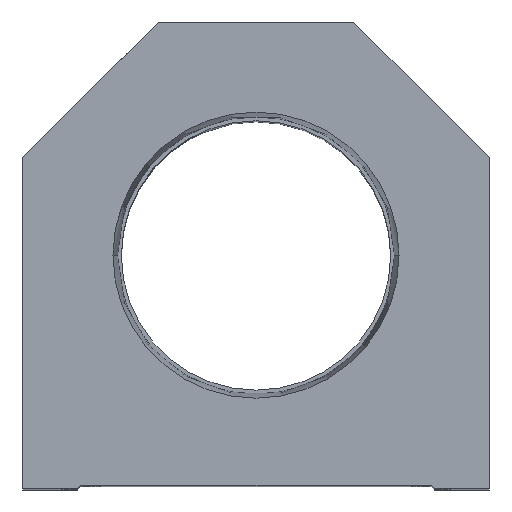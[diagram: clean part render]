
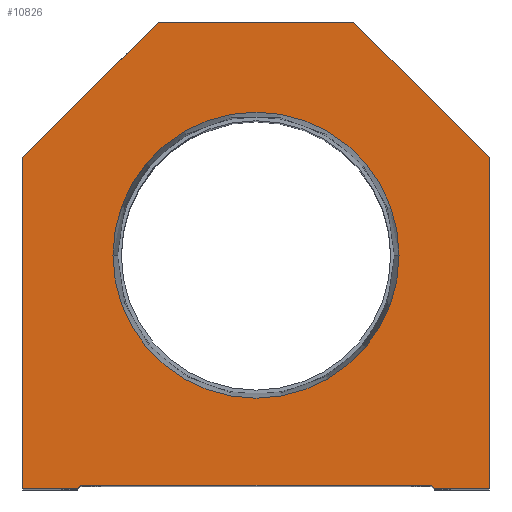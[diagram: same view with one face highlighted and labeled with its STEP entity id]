
A CAD part, top view. The second image highlights one B-rep face of the part: STEP entity #10826.
In plain terms, the highlighted planar face has unit normal (0, 0, 1).
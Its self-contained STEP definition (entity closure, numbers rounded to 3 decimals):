
#342 = VERTEX_POINT ( 'NONE', #2087 ) ;
#475 = AXIS2_PLACEMENT_3D ( 'NONE', #8013, #13179, #9384 ) ;
#737 = VERTEX_POINT ( 'NONE', #1593 ) ;
#806 = VERTEX_POINT ( 'NONE', #9627 ) ;
#1273 = LINE ( 'NONE', #6488, #8922 ) ;
#1296 = VERTEX_POINT ( 'NONE', #10046 ) ;
#1426 = VERTEX_POINT ( 'NONE', #9081 ) ;
#1593 = CARTESIAN_POINT ( 'NONE',  ( 23.374, 38.1, 0. ) ) ;
#1628 = ORIENTED_EDGE ( 'NONE', *, *, #2032, .T. ) ;
#1663 = VERTEX_POINT ( 'NONE', #8011 ) ;
#1791 = ORIENTED_EDGE ( 'NONE', *, *, #12466, .T. ) ;
#1812 = LINE ( 'NONE', #11260, #5793 ) ;
#2032 = EDGE_CURVE ( 'NONE', #10459, #6683, #10661, .T. ) ;
#2086 = CIRCLE ( 'NONE', #7817, 23.374 ) ;
#2087 = CARTESIAN_POINT ( 'NONE',  ( -29.1, 0., 0. ) ) ;
#2286 = FACE_OUTER_BOUND ( 'NONE', #15333, .T. ) ;
#2478 = ORIENTED_EDGE ( 'NONE', *, *, #7042, .T. ) ;
#2767 = EDGE_CURVE ( 'NONE', #15185, #342, #5731, .T. ) ;
#2788 = ORIENTED_EDGE ( 'NONE', *, *, #5217, .T. ) ;
#2837 = EDGE_CURVE ( 'NONE', #10149, #1663, #1812, .T. ) ;
#3220 = CARTESIAN_POINT ( 'NONE',  ( -38.1, 0., 0. ) ) ;
#3261 = DIRECTION ( 'NONE',  ( 1., 0., 0. ) ) ;
#3370 = EDGE_CURVE ( 'NONE', #1663, #10459, #9089, .T. ) ;
#3624 = VERTEX_POINT ( 'NONE', #3685 ) ;
#3685 = CARTESIAN_POINT ( 'NONE',  ( 38.1, 0., 0. ) ) ;
#3791 = CARTESIAN_POINT ( 'NONE',  ( 38.1, 54.1, 0. ) ) ;
#4081 = CARTESIAN_POINT ( 'NONE',  ( 28.6, 0., 0. ) ) ;
#4239 = EDGE_CURVE ( 'NONE', #1296, #737, #2086, .T. ) ;
#4508 = VECTOR ( 'NONE', #10135, 1000. ) ;
#4677 = VECTOR ( 'NONE', #14332, 1000. ) ;
#4866 = CARTESIAN_POINT ( 'NONE',  ( -14.55, 14.55, 0. ) ) ;
#5059 = EDGE_LOOP ( 'NONE', ( #15101, #6911 ) ) ;
#5217 = EDGE_CURVE ( 'NONE', #806, #1426, #1273, .T. ) ;
#5222 = VECTOR ( 'NONE', #9392, 1000. ) ;
#5355 = VECTOR ( 'NONE', #7274, 1000. ) ;
#5435 = LINE ( 'NONE', #6900, #5222 ) ;
#5665 = LINE ( 'NONE', #6158, #5355 ) ;
#5731 = LINE ( 'NONE', #9597, #12670 ) ;
#5793 = VECTOR ( 'NONE', #12366, 1000. ) ;
#6158 = CARTESIAN_POINT ( 'NONE',  ( 38.1, 0., 0. ) ) ;
#6197 = DIRECTION ( 'NONE',  ( 1., 0., 0. ) ) ;
#6488 = CARTESIAN_POINT ( 'NONE',  ( 14.55, 14.55, 0. ) ) ;
#6515 = LINE ( 'NONE', #4866, #4508 ) ;
#6575 = LINE ( 'NONE', #4081, #11543 ) ;
#6683 = VERTEX_POINT ( 'NONE', #9687 ) ;
#6852 = DIRECTION ( 'NONE',  ( -0.707, -0.707, 0. ) ) ;
#6900 = CARTESIAN_POINT ( 'NONE',  ( -28.6, 0.5, 0. ) ) ;
#6911 = ORIENTED_EDGE ( 'NONE', *, *, #4239, .F. ) ;
#6972 = DIRECTION ( 'NONE',  ( 0., -1., 0. ) ) ;
#7042 = EDGE_CURVE ( 'NONE', #7132, #806, #5435, .T. ) ;
#7132 = VERTEX_POINT ( 'NONE', #16329 ) ;
#7274 = DIRECTION ( 'NONE',  ( 0., 1., 0. ) ) ;
#7817 = AXIS2_PLACEMENT_3D ( 'NONE', #15718, #9032, #16908 ) ;
#8011 = CARTESIAN_POINT ( 'NONE',  ( 16., 76.2, 0. ) ) ;
#8013 = CARTESIAN_POINT ( 'NONE',  ( 0., 38.1, 0. ) ) ;
#8124 = AXIS2_PLACEMENT_3D ( 'NONE', #8851, #12742, #6197 ) ;
#8504 = EDGE_CURVE ( 'NONE', #342, #7132, #6515, .T. ) ;
#8851 = CARTESIAN_POINT ( 'NONE',  ( 0., 0., 0. ) ) ;
#8922 = VECTOR ( 'NONE', #16927, 1000. ) ;
#9032 = DIRECTION ( 'NONE',  ( 0., 0., 1. ) ) ;
#9081 = CARTESIAN_POINT ( 'NONE',  ( 29.1, 0., 0. ) ) ;
#9089 = LINE ( 'NONE', #9902, #4677 ) ;
#9275 = ORIENTED_EDGE ( 'NONE', *, *, #14950, .T. ) ;
#9384 = DIRECTION ( 'NONE',  ( 1., 0., 0. ) ) ;
#9392 = DIRECTION ( 'NONE',  ( 1., 0., 0. ) ) ;
#9399 = ORIENTED_EDGE ( 'NONE', *, *, #8504, .T. ) ;
#9597 = CARTESIAN_POINT ( 'NONE',  ( -28.6, 0., 0. ) ) ;
#9627 = CARTESIAN_POINT ( 'NONE',  ( 28.6, 0.5, 0. ) ) ;
#9687 = CARTESIAN_POINT ( 'NONE',  ( -38.1, 54.1, 0. ) ) ;
#9902 = CARTESIAN_POINT ( 'NONE',  ( 16., 76.2, 0. ) ) ;
#10046 = CARTESIAN_POINT ( 'NONE',  ( -23.374, 38.1, 0. ) ) ;
#10135 = DIRECTION ( 'NONE',  ( 0.707, 0.707, 0. ) ) ;
#10149 = VERTEX_POINT ( 'NONE', #3791 ) ;
#10343 = CARTESIAN_POINT ( 'NONE',  ( -38.1, 0., 0. ) ) ;
#10366 = ORIENTED_EDGE ( 'NONE', *, *, #2837, .T. ) ;
#10459 = VERTEX_POINT ( 'NONE', #15844 ) ;
#10661 = LINE ( 'NONE', #14585, #11911 ) ;
#10826 = ADVANCED_FACE ( 'NONE', ( #12914, #2286 ), #12654, .T. ) ;
#11260 = CARTESIAN_POINT ( 'NONE',  ( 38.1, 54.1, 0. ) ) ;
#11543 = VECTOR ( 'NONE', #14632, 1000. ) ;
#11883 = ORIENTED_EDGE ( 'NONE', *, *, #2767, .T. ) ;
#11911 = VECTOR ( 'NONE', #6852, 1000. ) ;
#12324 = ORIENTED_EDGE ( 'NONE', *, *, #3370, .T. ) ;
#12366 = DIRECTION ( 'NONE',  ( -0.707, 0.707, 0. ) ) ;
#12466 = EDGE_CURVE ( 'NONE', #3624, #10149, #5665, .T. ) ;
#12654 = PLANE ( 'NONE',  #8124 ) ;
#12670 = VECTOR ( 'NONE', #3261, 1000. ) ;
#12742 = DIRECTION ( 'NONE',  ( 0., 0., 1. ) ) ;
#12914 = FACE_BOUND ( 'NONE', #5059, .T. ) ;
#13123 = EDGE_CURVE ( 'NONE', #737, #1296, #16604, .T. ) ;
#13179 = DIRECTION ( 'NONE',  ( 0., 0., 1. ) ) ;
#13228 = VECTOR ( 'NONE', #6972, 1000. ) ;
#14332 = DIRECTION ( 'NONE',  ( -1., 0., 0. ) ) ;
#14585 = CARTESIAN_POINT ( 'NONE',  ( -38.1, 54.1, 0. ) ) ;
#14632 = DIRECTION ( 'NONE',  ( 1., 0., 0. ) ) ;
#14950 = EDGE_CURVE ( 'NONE', #6683, #15185, #16148, .T. ) ;
#15101 = ORIENTED_EDGE ( 'NONE', *, *, #13123, .F. ) ;
#15185 = VERTEX_POINT ( 'NONE', #10343 ) ;
#15333 = EDGE_LOOP ( 'NONE', ( #11883, #9399, #2478, #2788, #15480, #1791, #10366, #12324, #1628, #9275 ) ) ;
#15480 = ORIENTED_EDGE ( 'NONE', *, *, #16116, .T. ) ;
#15718 = CARTESIAN_POINT ( 'NONE',  ( 0., 38.1, 0. ) ) ;
#15844 = CARTESIAN_POINT ( 'NONE',  ( -16., 76.2, 0. ) ) ;
#16116 = EDGE_CURVE ( 'NONE', #1426, #3624, #6575, .T. ) ;
#16148 = LINE ( 'NONE', #3220, #13228 ) ;
#16329 = CARTESIAN_POINT ( 'NONE',  ( -28.6, 0.5, 0. ) ) ;
#16604 = CIRCLE ( 'NONE', #475, 23.374 ) ;
#16908 = DIRECTION ( 'NONE',  ( 1., 0., 0. ) ) ;
#16927 = DIRECTION ( 'NONE',  ( 0.707, -0.707, 0. ) ) ;
